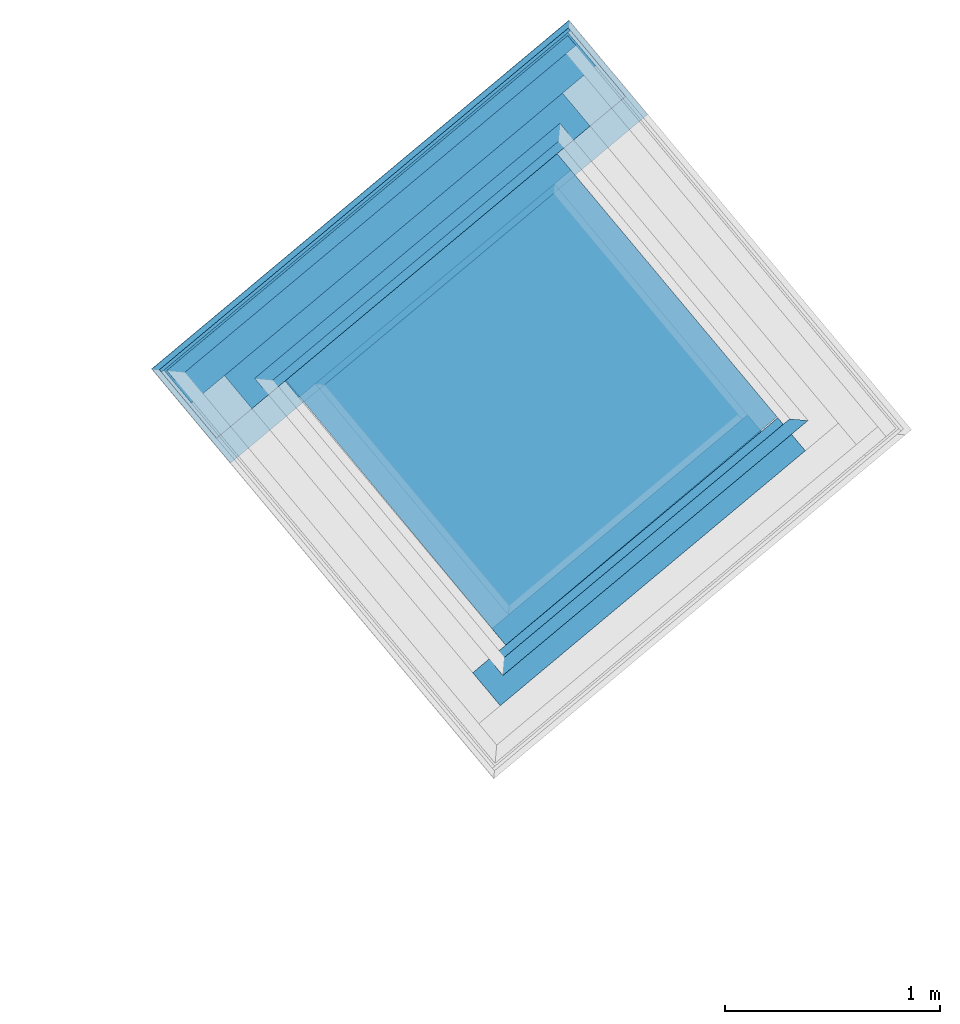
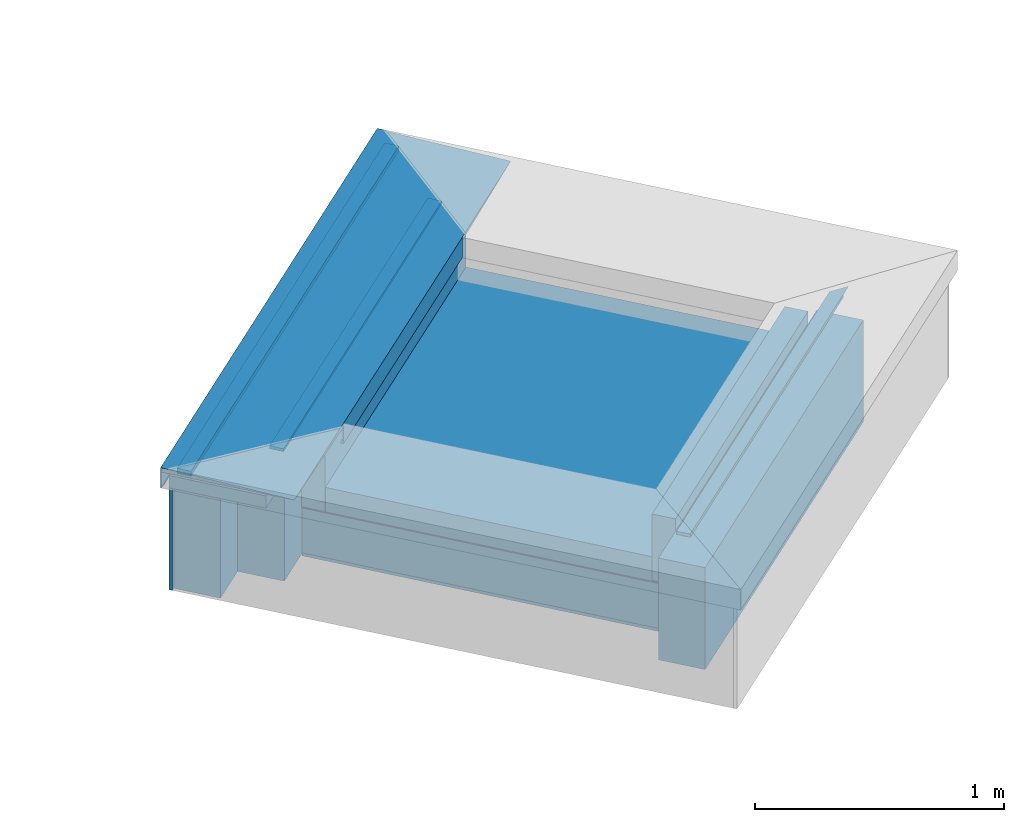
# One storey, part 10 of 13: 16 building element parts, 3 elements without a shape of their own.
"""IFC4 building model written with IfcOpenShell, lengths in metres."""

from ifc_helpers import new_model, entity, si_unit, converted_unit, derived_unit, direction, frame, origin_with_axes, place, context, subcontext, project, spatial, polygons, material, type_object, element, aggregate, save


model = new_model("IFC4")

# Units and contexts
model_context = context("Model", 3, precision=1e-05, world=origin_with_axes(), true_north=direction((0.0, 1.0)))
body_context = subcontext(model_context, "Body", "Model", "MODEL_VIEW")
ifc_project = project(units=[si_unit("LENGTHUNIT", "METRE"), si_unit("AREAUNIT", "SQUARE_METRE"), si_unit("VOLUMEUNIT", "CUBIC_METRE"), converted_unit("PLANEANGLEUNIT", "DEGREE", entity("IfcPlaneAngleMeasure", 0.0174532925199), si_unit("PLANEANGLEUNIT", "RADIAN"), dimensions=[0, 0, 0, 0, 0, 0, 0]), converted_unit("TIMEUNIT", "Year", entity("IfcTimeMeasure", 31556926.0), si_unit("TIMEUNIT", "SECOND"), dimensions=[0, 0, 1, 0, 0, 0, 0]), si_unit("MASSUNIT", "GRAM", prefix="KILO"), si_unit("THERMODYNAMICTEMPERATUREUNIT", "DEGREE_CELSIUS"), si_unit("LUMINOUSINTENSITYUNIT", "LUMEN"), si_unit("ENERGYUNIT", "JOULE", prefix="MEGA"), derived_unit("THERMALCONDUCTANCEUNIT", [(si_unit("POWERUNIT", "WATT"), 1), (si_unit("LENGTHUNIT", "METRE"), -1), (si_unit("THERMODYNAMICTEMPERATUREUNIT", "KELVIN"), -1)]), derived_unit("SPECIFICHEATCAPACITYUNIT", [(si_unit("ENERGYUNIT", "JOULE"), 1), (si_unit("MASSUNIT", "GRAM", prefix="KILO"), -1), (si_unit("THERMODYNAMICTEMPERATUREUNIT", "KELVIN"), -1)]), derived_unit("MASSDENSITYUNIT", [(si_unit("MASSUNIT", "GRAM", prefix="KILO"), 1), (si_unit("VOLUMEUNIT", "CUBIC_METRE"), -1)])], contexts=[model_context])

# Site, building, storey
site_placement = place(None, frame((-0.00153261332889, -0.00661245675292, 0.0), z_axis=(0.0, 0.0, 1.0), x_axis=(1.0, 0.0, 0.0)))
site = spatial("IfcSite", under=ifc_project, at=site_placement, Name="Gelände", CompositionType="ELEMENT")
building_placement = place(site_placement, origin_with_axes())
building = spatial("IfcBuilding", under=site, at=building_placement, Name="Gebäude", CompositionType="ELEMENT")
storey_placement = place(building_placement, frame((0.0, 0.0, 11.84), z_axis=(0.0, 0.0, 1.0), x_axis=(1.0, 0.0, 0.0)))
storey = spatial("IfcBuildingStorey", under=building, at=storey_placement, Name="DA", CompositionType="ELEMENT", Elevation=11.84)

# Wall, building element parts
wall_type = type_object("IfcWallType", Name="Bauteil - Attika 574 x 610", PredefinedType="NOTDEFINED")
wall_1_placement = place(storey_placement, frame((1.33818690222, 24.5040825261, 0.96), z_axis=(0.0, 0.0, 1.0), x_axis=(0.767364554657, 0.641211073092, 0.0)))
wall_1 = element("IfcWall", 1, at=wall_1_placement, inside=storey, type_object=wall_type, Name="Wand-002", PredefinedType="NOTDEFINED")
ifc_material_1 = material(Name="EPS 1")
building_element_part_1_placement = place(wall_1_placement, origin_with_axes())
building_element_part_1 = element("IfcBuildingElementPart", 2, at=building_element_part_1_placement, material=ifc_material_1, Name="EPS 1", PredefinedType="NOTDEFINED", context=body_context, shape_type="Tessellation", body=[
    polygons([(0.200019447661, 0.30000000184, 0.560000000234), (0.200012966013, 0.200000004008, 0.560000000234), (1.7496829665, 0.200000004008, 0.560000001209), (1.74968315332, 0.30000000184, 0.560000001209), (0.200012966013, 0.200000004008, 0.519224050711), (0.200019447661, 0.30000000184, 0.519224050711), (0.200012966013, 0.200000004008, 0.51136132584), (0.200012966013, 0.200000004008, 0.509050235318), (0.200012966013, 0.200000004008, 0.499999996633), (0.200012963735, 0.200000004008, 0.498822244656), (0.200012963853, 0.200000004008, 0.491006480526), (0.200012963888, 0.200000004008, 0.488695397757), (0.200012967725, 0.200000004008, 0.235000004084), (1.7496829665, 0.200000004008, 0.235000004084), (1.7496829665, 0.200000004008, 0.488695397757), (1.7496829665, 0.200000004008, 0.491006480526), (1.7496829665, 0.200000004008, 0.498822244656), (1.7496829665, 0.200000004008, 0.499999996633), (1.7496829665, 0.200000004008, 0.509050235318), (1.7496829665, 0.200000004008, 0.51136132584), (1.7496829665, 0.200000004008, 0.519224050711), (1.74968315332, 0.30000000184, 0.519224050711), (1.74968315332, 0.30000000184, 0.51136132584), (1.74968315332, 0.30000000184, 0.509050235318), (1.74968315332, 0.30000000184, 0.499999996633), (1.74968315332, 0.30000000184, 0.498822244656), (1.74968315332, 0.30000000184, 0.491006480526), (1.74968315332, 0.30000000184, 0.488695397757), (1.74968315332, 0.30000000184, 0.235000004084), (0.200019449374, 0.30000000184, 0.235000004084), (0.200019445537, 0.30000000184, 0.488695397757), (0.200019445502, 0.30000000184, 0.491006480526), (0.200019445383, 0.30000000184, 0.498822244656), (0.200019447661, 0.30000000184, 0.499999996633), (0.200019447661, 0.30000000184, 0.509050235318), (0.200019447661, 0.30000000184, 0.51136132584)], [[[1, 2, 3, 4]], [[5, 2, 1, 6]], [[2, 5, 7, 8, 9, 10, 11, 12, 13, 14, 15, 16, 17, 18, 19, 20, 21, 3]], [[4, 3, 21, 22]], [[6, 1, 4, 22, 23, 24, 25, 26, 27, 28, 29, 30, 31, 32, 33, 34, 35, 36]], [[5, 6, 36, 7]], [[7, 36, 35, 8]], [[8, 35, 34, 9]], [[9, 34, 33, 10]], [[10, 33, 32, 11]], [[11, 32, 31, 12]], [[12, 31, 30, 13]], [[13, 30, 29, 14]], [[28, 15, 14, 29]], [[27, 16, 15, 28]], [[26, 17, 16, 27]], [[25, 18, 17, 26]], [[24, 19, 18, 25]], [[23, 20, 19, 24]], [[22, 21, 20, 23]]], closed=True),
])
ifc_material_2 = material(Name="Vollholz")
building_element_part_2_placement = place(wall_1_placement, origin_with_axes())
building_element_part_2 = element("IfcBuildingElementPart", 3, at=building_element_part_2_placement, material=ifc_material_2, Name="Vollholz", PredefinedType="NOTDEFINED", context=body_context, shape_type="Tessellation", body=[
    polygons([(0.100010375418, 0.160110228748, 0.573880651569), (0.100006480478, 0.1, 0.575979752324), (1.94968278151, 0.1, 0.575979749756), (1.88957266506, 0.160110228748, 0.573880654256), (0.100006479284, 0.1, 0.573880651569), (0.100006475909, 0.1, 0.567947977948), (0.100006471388, 0.1, 0.560000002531), (1.88968278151, 0.1, 0.560000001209), (1.88961966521, 0.1, 0.567947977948), (1.88957255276, 0.1, 0.573880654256), (1.88961977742, 0.160063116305, 0.567947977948), (1.88968289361, 0.16, 0.560000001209), (0.100010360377, 0.16, 0.560000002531), (0.100010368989, 0.160063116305, 0.567947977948)], [[[1, 2, 3, 4]], [[5, 2, 1]], [[2, 5, 6, 7, 8, 9, 10, 3]], [[10, 4, 3]], [[11, 12, 13, 14, 1, 4]], [[5, 1, 14, 6]], [[7, 6, 14, 13]], [[12, 8, 7, 13]], [[12, 11, 9, 8]], [[4, 10, 9, 11]]], closed=True),
])
ifc_material_3 = material(Name="Stahlbeton Wand Garage")
building_element_part_3_placement = place(wall_1_placement, origin_with_axes())
building_element_part_3 = element("IfcBuildingElementPart", 4, at=building_element_part_3_placement, material=ifc_material_3, Name="Stahlbeton Wand Garage", PredefinedType="NOTDEFINED", context=body_context, shape_type="Tessellation", body=[
    polygons([(1.29654635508e-05, 0.2, 0.5), (2.16659046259e-09, 0.0, 0.5), (1.84968259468, 0.0, 0.5), (1.84968296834, 0.2, 0.5), (2.16658690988e-09, 0.0, 0.498822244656), (1.29654641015e-05, 0.200000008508, 0.498822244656), (2.16657625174e-09, -1.53391965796e-10, 0.491006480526), (2.16657625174e-09, -1.92805771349e-10, 0.488695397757), (2.16629203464e-09, -4.51978010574e-09, 0.235000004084), (2.16658690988e-09, 0.0, 0.0), (1.84968259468, 0.0, 0.0), (1.84968259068, -4.51978010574e-09, 0.235000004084), (1.84968259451, -1.92805771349e-10, 0.488695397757), (1.84968259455, -1.53388413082e-10, 0.491006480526), (1.84968259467, 0.0, 0.498822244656), (1.84968296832, 0.200000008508, 0.498822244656), (1.8496829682, 0.200000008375, 0.491006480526), (1.84968296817, 0.200000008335, 0.488695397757), (1.84968296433, 0.200000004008, 0.235000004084), (1.29654638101e-05, 0.200000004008, 0.235000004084), (1.29654640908e-05, 0.200000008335, 0.488695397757), (1.29654640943e-05, 0.200000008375, 0.491006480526), (1.29654635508e-05, 0.2, 0.0), (1.84968296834, 0.2, 0.0)], [[[1, 2, 3, 4]], [[5, 2, 1, 6]], [[2, 5, 7, 8, 9, 10, 11, 12, 13, 14, 15, 3]], [[4, 3, 15, 16]], [[6, 1, 4, 16, 17, 18, 19, 20, 21, 22]], [[5, 6, 22, 7]], [[7, 22, 21, 8]], [[8, 21, 20, 9]], [[9, 20, 23, 10]], [[10, 23, 24, 11]], [[19, 12, 11, 24]], [[18, 13, 12, 19]], [[17, 14, 13, 18]], [[16, 15, 14, 17]], [[23, 20, 19, 24]]], closed=True),
])
aggregate(wall_1, [building_element_part_1, building_element_part_2, building_element_part_3])

wall_2_placement = place(storey_placement, frame((0.0551279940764, 26.0397759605, 0.96), z_axis=(0.0, 0.0, 1.0), x_axis=(0.767365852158, 0.641209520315, 0.0)))
wall_2 = element("IfcWall", 5, at=wall_2_placement, inside=storey, type_object=wall_type, Name="Wand-002", PredefinedType="NOTDEFINED")
ifc_material_4 = material(Name="Zementputz")
building_element_part_4_placement = place(wall_2_placement, origin_with_axes())
building_element_part_4 = element("IfcBuildingElementPart", 6, at=building_element_part_4_placement, material=ifc_material_4, Name="Zementputz", PredefinedType="NOTDEFINED", context=body_context, shape_type="Tessellation", body=[
    polygons([(-0.2149864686, 0.214999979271, 0.50000001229), (-0.214987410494, 0.19999996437, 0.50000001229), (2.26455656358, 0.199999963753, 0.50000001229), (2.26455656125, 0.214999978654, 0.50000001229), (-0.214984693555, 0.199999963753, 0.0), (-0.214983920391, 0.214999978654, 0.0), (2.26455656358, 0.199999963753, 0.0), (2.26455656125, 0.214999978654, 0.0)], [[[1, 2, 3, 4]], [[5, 2, 1, 6]], [[2, 5, 7, 3]], [[3, 7, 8, 4]], [[6, 1, 4, 8]], [[5, 6, 8, 7]]], closed=True),
])
building_element_part_5_placement = place(wall_2_placement, origin_with_axes())
building_element_part_5 = element("IfcBuildingElementPart", 7, at=building_element_part_5_placement, material=ifc_material_2, Name="Vollholz", PredefinedType="NOTDEFINED", context=body_context, shape_type="Tessellation", body=[
    polygons([(-0.18997324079, 0.189984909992, 0.586106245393), (-0.189987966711, 0.130124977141, 0.584015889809), (2.23955274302, 0.130124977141, 0.584015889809), (2.23954176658, 0.189984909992, 0.586106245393), (-0.189984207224, 0.189996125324, 0.584015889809), (2.23963894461, 0.130124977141, 0.567947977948), (2.23960711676, 0.130124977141, 0.573880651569), (2.23959585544, 0.130124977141, 0.575979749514), (-0.190031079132, 0.130124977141, 0.575979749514), (-0.190042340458, 0.130124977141, 0.573880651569), (-0.190074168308, 0.130124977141, 0.567947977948), (-0.190116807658, 0.130124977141, 0.560000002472), (2.23968158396, 0.130124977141, 0.560000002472), (2.23955273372, 0.189996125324, 0.584015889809), (2.23959584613, 0.190039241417, 0.575979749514), (2.23960710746, 0.190050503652, 0.573880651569), (2.2396389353, 0.190082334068, 0.567947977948), (2.23968157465, 0.190124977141, 0.560000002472), (-0.19011304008, 0.190124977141, 0.560000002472), (-0.190070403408, 0.190082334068, 0.567947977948), (-0.190038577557, 0.190050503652, 0.573880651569), (-0.190027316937, 0.190039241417, 0.575979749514)], [[[1, 2, 3, 4]], [[5, 2, 1]], [[6, 7, 8, 3, 2, 9, 10, 11, 12, 13]], [[3, 14, 4]], [[5, 1, 4, 14, 15, 16, 17, 18, 19, 20, 21, 22]], [[2, 5, 22, 9]], [[6, 17, 16, 7]], [[7, 16, 15, 8]], [[8, 15, 14, 3]], [[9, 22, 21, 10]], [[10, 21, 20, 11]], [[11, 20, 19, 12]], [[12, 19, 18, 13]], [[13, 18, 17, 6]]], closed=True),
])
building_element_part_6_placement = place(wall_2_placement, origin_with_axes())
building_element_part_6 = element("IfcBuildingElementPart", 8, at=building_element_part_6_placement, material=ifc_material_1, Name="EPS 1", PredefinedType="NOTDEFINED", context=body_context, shape_type="Tessellation", body=[
    polygons([(-0.199987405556, 0.199999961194, 0.5), (-0.199999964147, -1.55327128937e-09, 0.5), (2.2495565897, -2.16285656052e-09, 0.5), (2.24955655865, 0.199999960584, 0.5), (-0.199999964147, -1.54953738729e-09, 0.498822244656), (-0.199987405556, 0.19999996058, 0.498822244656), (-0.199999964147, -1.54953738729e-09, 0.491006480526), (-0.199999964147, -1.54953738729e-09, 0.488695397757), (-0.199999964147, -1.54953738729e-09, 0.235000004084), (-0.199999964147, -2.16658690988e-09, 0.0), (2.2495565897, -2.16659046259e-09, 0.0), (2.2495565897, -1.54954094e-09, 0.235000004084), (2.2495565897, -1.54954094e-09, 0.488695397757), (2.2495565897, -1.54954094e-09, 0.491006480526), (2.2495565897, -1.54954094e-09, 0.498822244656), (2.24955655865, 0.19999996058, 0.498822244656), (2.24955655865, 0.19999996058, 0.491006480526), (2.24955655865, 0.19999996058, 0.488695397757), (2.24955655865, 0.19999996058, 0.235000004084), (2.24955655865, 0.19999996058, 0.0), (-0.199987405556, 0.19999996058, 0.0), (-0.199987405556, 0.19999996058, 0.235000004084), (-0.199987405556, 0.19999996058, 0.488695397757), (-0.199987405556, 0.19999996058, 0.491006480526)], [[[1, 2, 3, 4]], [[5, 2, 1, 6]], [[2, 5, 7, 8, 9, 10, 11, 12, 13, 14, 15, 3]], [[16, 4, 3, 15]], [[6, 1, 4, 16, 17, 18, 19, 20, 21, 22, 23, 24]], [[5, 6, 24, 7]], [[23, 8, 7, 24]], [[8, 23, 22, 9]], [[21, 10, 9, 22]], [[10, 21, 20, 11]], [[12, 11, 20, 19]], [[19, 18, 13, 12]], [[14, 13, 18, 17]], [[17, 16, 15, 14]]], closed=True),
])
ifc_material_5 = material(Name="Brettschichtholz")
building_element_part_7_placement = place(wall_2_placement, origin_with_axes())
building_element_part_7 = element("IfcBuildingElementPart", 9, at=building_element_part_7_placement, material=ifc_material_5, Name="Brettschichtholz", PredefinedType="NOTDEFINED", context=body_context, shape_type="Tessellation", body=[
    polygons([(-0.215010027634, -0.159999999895, 0.560000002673), (-0.215012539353, -0.200000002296, 0.560000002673), (2.26455663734, -0.200000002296, 0.560000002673), (2.26455663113, -0.159999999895, 0.560000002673), (-0.215012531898, -0.200000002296, 0.519224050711), (-0.215006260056, -0.0999999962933, 0.560000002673), (-0.214991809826, 0.130124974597, 0.560000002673), (-0.214988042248, 0.190124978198, 0.560000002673), (-0.214986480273, 0.214999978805, 0.560000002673), (-0.214986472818, 0.214999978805, 0.519224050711), (-0.215012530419, -0.200000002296, 0.51136132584), (-0.21500531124, -0.200000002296, 0.50905023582), (-0.21501252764, -0.200000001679, 0.50000001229), (2.26455662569, -0.200000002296, 0.50000001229), (2.26455662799, -0.200000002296, 0.509050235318), (2.2645566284, -0.200000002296, 0.51136132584), (2.26455662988, -0.200000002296, 0.519224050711), (2.26455658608, 0.130124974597, 0.560000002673), (2.26455662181, -0.0999999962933, 0.560000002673), (2.26455656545, 0.214999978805, 0.519224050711), (2.2645565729, 0.214999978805, 0.560000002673), (2.26455657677, 0.190124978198, 0.560000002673), (2.26455656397, 0.214999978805, 0.51136132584), (2.26455656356, 0.214999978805, 0.509050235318), (2.26455656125, 0.214999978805, 0.50000001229), (-0.2149864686, 0.214999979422, 0.50000001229), (-0.214986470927, 0.214999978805, 0.509050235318), (-0.214986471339, 0.214999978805, 0.51136132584)], [[[1, 2, 3, 4]], [[5, 2, 1, 6, 7, 8, 9, 10]], [[2, 5, 11, 12, 13, 14, 15, 16, 17, 3]], [[18, 19, 4, 3, 17, 20, 21, 22]], [[6, 1, 4, 19]], [[7, 6, 19, 18]], [[8, 7, 18, 22]], [[9, 8, 22, 21]], [[10, 9, 21, 20, 23, 24, 25, 26, 27, 28]], [[5, 10, 28, 11]], [[12, 11, 27]], [[12, 26, 13]], [[25, 14, 13, 26]], [[14, 25, 24, 15]], [[23, 16, 15, 24]], [[16, 23, 20, 17]], [[26, 12, 27]], [[27, 11, 28]]], closed=True),
])
building_element_part_8_placement = place(wall_2_placement, origin_with_axes())
building_element_part_8 = element("IfcBuildingElementPart", 10, at=building_element_part_8_placement, material=ifc_material_3, Name="Stahlbeton Wand Garage", PredefinedType="NOTDEFINED", context=body_context, shape_type="Tessellation", body=[
    polygons([(2.16662243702e-09, 5.635492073e-10, 0.5), (-1.25564266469e-05, -0.199999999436, 0.5), (2.04955665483, -0.199999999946, 0.5), (2.04955662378, 0.0, 0.5), (-1.25564266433e-05, -0.199999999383, 0.498822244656), (2.16659046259e-09, 0.0, 0.498822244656), (-1.25564266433e-05, -0.199999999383, 0.491006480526), (-1.25564266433e-05, -0.199999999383, 0.488695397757), (-1.25564269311e-05, -0.200000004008, 0.235000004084), (2.04955665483, -0.200000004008, 0.235000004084), (2.04955665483, -0.199999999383, 0.488695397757), (2.04955665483, -0.199999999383, 0.491006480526), (2.04955665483, -0.199999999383, 0.498822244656), (2.04955662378, 0.0, 0.498822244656), (2.04955662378, 0.0, 0.491006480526), (2.04955662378, 0.0, 0.488695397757), (2.04955662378, 0.0, 0.235000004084), (2.04955662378, 0.0, 0.0), (2.16659046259e-09, 0.0, 0.0), (2.16659046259e-09, 0.0, 0.235000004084), (2.16659046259e-09, 0.0, 0.488695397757), (2.16659046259e-09, 0.0, 0.491006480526), (-1.25564266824e-05, -0.2, 0.0), (2.04955665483, -0.2, 0.0)], [[[1, 2, 3, 4]], [[5, 2, 1, 6]], [[2, 5, 7, 8, 9, 10, 11, 12, 13, 3]], [[13, 14, 4, 3]], [[6, 1, 4, 14, 15, 16, 17, 18, 19, 20, 21, 22]], [[5, 6, 22, 7]], [[7, 22, 21, 8]], [[8, 21, 20, 9]], [[9, 23, 24, 10]], [[10, 17, 16, 11]], [[11, 16, 15, 12]], [[12, 15, 14, 13]], [[24, 18, 17, 10]], [[23, 19, 18, 24]], [[9, 20, 19, 23]]], closed=True),
])
building_element_part_9_placement = place(wall_2_placement, origin_with_axes())
building_element_part_9 = element("IfcBuildingElementPart", 11, at=building_element_part_9_placement, material=ifc_material_2, Name="Vollholz", PredefinedType="NOTDEFINED", context=body_context, shape_type="Tessellation", body=[
    polygons([(0.09999371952, -0.1, 0.575979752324), (0.0999899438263, -0.160110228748, 0.573880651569), (1.94955665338, -0.160110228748, 0.573880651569), (1.94955664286, -0.1, 0.575979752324), (0.0999937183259, -0.1, 0.573880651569), (1.94955665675, -0.160063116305, 0.567947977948), (0.09998994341, -0.160063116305, 0.567947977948), (0.0999899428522, -0.16, 0.560000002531), (1.94955666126, -0.16, 0.560000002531), (1.94955664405, -0.1, 0.573880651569), (1.94955664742, -0.1, 0.567947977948), (1.94955665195, -0.1, 0.560000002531), (0.0999937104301, -0.1, 0.560000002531), (0.0999937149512, -0.1, 0.567947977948)], [[[1, 2, 3, 4]], [[5, 2, 1]], [[6, 3, 2, 7, 8, 9]], [[10, 4, 3]], [[5, 1, 4, 10, 11, 12, 13, 14]], [[2, 5, 14, 7]], [[10, 3, 6, 11]], [[7, 14, 13, 8]], [[8, 13, 12, 9]], [[11, 6, 9, 12]]], closed=True),
])
building_element_part_10_placement = place(wall_2_placement, origin_with_axes())
building_element_part_10 = element("IfcBuildingElementPart", 12, at=building_element_part_10_placement, material=ifc_material_1, Name="EPS 1", PredefinedType="NOTDEFINED", context=body_context, shape_type="Tessellation", body=[
    polygons([(0.199987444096, -0.200000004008, 0.560000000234), (0.1999811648, -0.30000000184, 0.560000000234), (1.84955667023, -0.30000000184, 0.560000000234), (1.84955665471, -0.200000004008, 0.560000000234), (0.1999811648, -0.30000000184, 0.519224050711), (0.199987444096, -0.200000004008, 0.519224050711), (0.1999811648, -0.30000000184, 0.51136132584), (0.1999811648, -0.30000000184, 0.509050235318), (0.1999811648, -0.30000000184, 0.499999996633), (0.199981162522, -0.30000000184, 0.498822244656), (0.19998116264, -0.30000000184, 0.491006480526), (0.199981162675, -0.30000000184, 0.488695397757), (0.199981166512, -0.30000000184, 0.235000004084), (1.84955666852, -0.30000000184, 0.235000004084), (1.84955667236, -0.30000000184, 0.488695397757), (1.84955667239, -0.30000000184, 0.491006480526), (1.84955667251, -0.30000000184, 0.498822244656), (1.84955667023, -0.30000000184, 0.499999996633), (1.84955667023, -0.30000000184, 0.509050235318), (1.84955667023, -0.30000000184, 0.51136132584), (1.84955667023, -0.30000000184, 0.519224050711), (1.84955665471, -0.200000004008, 0.519224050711), (1.84955665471, -0.200000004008, 0.51136132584), (1.84955665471, -0.200000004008, 0.509050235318), (1.84955665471, -0.200000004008, 0.499999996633), (1.84955665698, -0.200000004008, 0.498822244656), (1.84955665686, -0.200000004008, 0.491006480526), (1.84955665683, -0.200000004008, 0.488695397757), (1.84955665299, -0.200000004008, 0.235000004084), (0.199987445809, -0.200000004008, 0.235000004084), (0.199987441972, -0.200000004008, 0.488695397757), (0.199987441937, -0.200000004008, 0.491006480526), (0.199987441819, -0.200000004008, 0.498822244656), (0.199987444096, -0.200000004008, 0.499999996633), (0.199987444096, -0.200000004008, 0.509050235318), (0.199987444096, -0.200000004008, 0.51136132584)], [[[1, 2, 3, 4]], [[5, 2, 1, 6]], [[2, 5, 7, 8, 9, 10, 11, 12, 13, 14, 15, 16, 17, 18, 19, 20, 21, 3]], [[3, 21, 22, 4]], [[6, 1, 4, 22, 23, 24, 25, 26, 27, 28, 29, 30, 31, 32, 33, 34, 35, 36]], [[5, 6, 36, 7]], [[35, 8, 7, 36]], [[8, 35, 34, 9]], [[33, 10, 9, 34]], [[10, 33, 32, 11]], [[31, 12, 11, 32]], [[12, 31, 30, 13]], [[29, 14, 13, 30]], [[15, 14, 29, 28]], [[28, 27, 16, 15]], [[17, 16, 27, 26]], [[18, 17, 26, 25]], [[19, 18, 25, 24]], [[20, 19, 24, 23]], [[21, 20, 23, 22]]], closed=True),
])
ifc_material_6 = material(Name="Holzwerkstoff")
building_element_part_11_placement = place(wall_2_placement, origin_with_axes())
building_element_part_11 = element("IfcBuildingElementPart", 13, at=building_element_part_11_placement, material=ifc_material_6, Name="Holzwerkstoff", PredefinedType="NOTDEFINED", context=body_context, shape_type="Tessellation", body=[
    polygons([(-0.130145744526, -0.330561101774, 0.584015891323), (-0.190005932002, -0.330634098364, 0.586106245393), (-0.189973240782, 0.189985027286, 0.586106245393), (-0.130116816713, 0.130124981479, 0.584015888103), (0.0999792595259, -0.330280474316, 0.575979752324), (0.160089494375, -0.330207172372, 0.573880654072), (0.329979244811, -0.329999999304, 0.567947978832), (1.71955671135, -0.329999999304, 0.567947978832), (1.88944644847, -0.330207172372, 0.573880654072), (1.94955667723, -0.330280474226, 0.575979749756), (2.17968166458, -0.330561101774, 0.584015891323), (2.23954158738, -0.330634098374, 0.586106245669), (2.28955667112, -0.330695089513, 0.587852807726), (2.28955367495, -0.330698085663, 0.587938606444), (-0.240017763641, -0.330698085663, 0.587938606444), (-0.240020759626, -0.330695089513, 0.587852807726), (-0.239984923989, 0.239999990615, 0.587852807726), (2.23954138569, 0.189984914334, 0.586106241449), (2.17968150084, 0.130124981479, 0.584015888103), (0.0999937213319, -0.100000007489, 0.575979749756), (0.160100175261, -0.160110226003, 0.573880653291), (1.88944642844, -0.160110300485, 0.57388065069), (1.94955664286, -0.0999999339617, 0.575979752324), (2.28955658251, 0.239999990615, 0.587852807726), (2.28955358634, 0.239996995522, 0.587938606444), (-0.239261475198, 0.239276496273, 0.608570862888), (2.28883308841, 0.239276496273, 0.608570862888), (-0.239981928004, 0.239996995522, 0.587938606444)], [[[1, 2, 3, 4]], [[1, 5, 6, 7, 8, 9, 10, 11, 12, 13, 14, 15, 16, 2]], [[2, 16, 17, 3]], [[4, 3, 18, 19]], [[5, 1, 4, 20]], [[20, 21, 6, 5]], [[7, 6, 21]], [[8, 7, 21, 22]], [[8, 22, 9]], [[9, 22, 23, 10]], [[10, 23, 19, 11]], [[19, 18, 12, 11]], [[18, 24, 13, 12]], [[24, 25, 14, 13]], [[26, 15, 14, 27]], [[16, 15, 28, 17]], [[3, 17, 24, 18]], [[20, 4, 19, 23]], [[21, 20, 23, 22]], [[17, 28, 26, 27, 25, 24]], [[25, 27, 14]], [[28, 15, 26]]], closed=True),
])
ifc_material_7 = material(Name="Stahl")
building_element_part_12_placement = place(wall_2_placement, origin_with_axes())
building_element_part_12 = element("IfcBuildingElementPart", 14, at=building_element_part_12_placement, material=ifc_material_7, Name="Stahl", PredefinedType="NOTDEFINED", context=body_context, shape_type="Tessellation", body=[
    polygons([(-0.240131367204, 0.240146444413, 0.511361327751), (-0.241485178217, 0.240146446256, 0.51136132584), (-0.241485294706, 0.238231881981, 0.511361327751), (-0.240131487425, 0.238231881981, 0.511361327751), (2.2897030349, 0.240146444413, 0.511361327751), (2.29105684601, 0.240146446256, 0.51136132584), (2.29105684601, 0.240152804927, 0.608602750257), (2.28970939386, 0.240152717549, 0.608602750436), (-0.240137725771, 0.240152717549, 0.608602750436), (-0.241485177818, 0.240152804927, 0.608602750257), (-0.241487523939, 0.202730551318, 0.608602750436), (-0.241485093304, 0.241500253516, 0.610006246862), (-0.241485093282, 0.241500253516, 0.510007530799), (-0.241485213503, 0.239585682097, 0.510007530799), (-0.240527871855, 0.240542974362, 0.509050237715), (2.29009956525, 0.240542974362, 0.509050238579), (2.2910568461, 0.239585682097, 0.510007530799), (2.29105684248, 0.238231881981, 0.511361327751), (2.2897030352, 0.238231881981, 0.511361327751), (2.28284456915, 0.231373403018, 0.518219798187), (-0.233273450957, 0.231373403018, 0.518219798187), (-0.232269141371, 0.232283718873, 0.51922405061), (2.28184031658, 0.232283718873, 0.51922405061), (2.2910568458, 0.241500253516, 0.510007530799), (2.2910568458, 0.241500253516, 0.610006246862), (2.29105684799, 0.202730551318, 0.608602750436), (2.28970939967, 0.202730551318, 0.608602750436), (-0.23926147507, 0.239276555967, 0.608570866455), (2.28883308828, 0.239276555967, 0.608570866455), (-0.24014007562, 0.202730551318, 0.608602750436), (-0.239263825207, 0.201849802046, 0.608570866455), (0.294639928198, -0.332051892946, 0.589243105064), (1.75489589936, -0.332051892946, 0.589243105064), (2.28883309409, 0.201849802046, 0.608570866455), (0.330677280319, -0.330698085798, 0.587937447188), (0.330677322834, -0.330666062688, 0.587938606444), (1.7188585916, -0.330666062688, 0.587938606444), (1.71885863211, -0.330698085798, 0.587937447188), (0.330677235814, -0.332051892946, 0.587938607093), (0.328762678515, -0.332051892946, 0.491006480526), (0.330116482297, -0.332051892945, 0.489652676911), (1.71941934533, -0.332051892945, 0.489652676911), (1.72077314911, -0.332051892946, 0.491006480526), (1.71885859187, -0.332051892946, 0.491006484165), (1.71885859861, -0.332051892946, 0.498822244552), (1.71885859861, -0.332051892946, 0.499999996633), (1.71885859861, -0.332051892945, 0.509050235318), (1.71885859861, -0.332051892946, 0.51136132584), (1.71885859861, -0.332051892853, 0.519224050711), (1.71885859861, -0.332051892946, 0.560000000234), (1.71885859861, -0.332051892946, 0.56794797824), (1.71885859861, -0.332051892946, 0.57388065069), (1.71885859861, -0.332051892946, 0.575979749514), (1.71885859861, -0.332051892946, 0.584015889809), (1.71885859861, -0.332051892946, 0.586106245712), (1.71885859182, -0.332051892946, 0.587938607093), (0.330677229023, -0.332051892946, 0.586106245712), (0.330677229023, -0.332051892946, 0.584015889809), (0.330677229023, -0.332051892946, 0.575979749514), (0.330677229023, -0.332051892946, 0.57388065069), (0.330677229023, -0.332051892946, 0.56794797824), (0.330677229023, -0.332051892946, 0.560000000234), (0.330677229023, -0.332051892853, 0.519224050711), (0.330677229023, -0.332051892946, 0.51136132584), (0.330677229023, -0.332051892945, 0.509050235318), (0.330677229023, -0.332051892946, 0.499999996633), (0.330677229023, -0.332051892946, 0.498822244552), (0.330677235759, -0.332051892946, 0.491006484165), (0.330677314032, -0.330698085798, 0.498822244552), (0.330677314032, -0.330698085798, 0.499999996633), (0.330677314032, -0.330698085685, 0.509050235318), (0.330677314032, -0.330698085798, 0.51136132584), (0.330677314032, -0.330698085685, 0.519224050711), (0.330677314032, -0.330698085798, 0.560000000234), (0.330677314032, -0.330698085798, 0.56794797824), (0.330677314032, -0.330698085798, 0.57388065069), (0.330677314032, -0.330698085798, 0.575979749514), (0.330677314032, -0.330698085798, 0.584015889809), (0.330677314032, -0.330698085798, 0.586106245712), (1.7188585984, -0.330698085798, 0.586106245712), (1.7188585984, -0.330698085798, 0.584015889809), (1.7188585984, -0.330698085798, 0.575979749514), (1.7188585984, -0.330698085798, 0.57388065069), (1.7188585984, -0.330698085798, 0.56794797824), (1.7188585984, -0.330698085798, 0.560000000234), (1.7188585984, -0.330698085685, 0.519224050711), (1.7188585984, -0.330698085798, 0.51136132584), (1.7188585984, -0.330698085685, 0.509050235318), (1.7188585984, -0.330698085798, 0.499999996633), (1.7188585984, -0.330698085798, 0.498822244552), (1.71885859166, -0.330698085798, 0.491006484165), (0.330677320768, -0.330698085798, 0.491006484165), (0.328762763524, -0.330698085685, 0.491006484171), (0.328762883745, -0.328783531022, 0.491006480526), (0.331073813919, -0.331094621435, 0.4886954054), (1.71846207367, -0.331094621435, 0.4886954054), (1.72077314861, -0.328783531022, 0.491006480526), (1.7207731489, -0.330698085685, 0.491006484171), (1.72767860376, -0.323792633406, 0.497911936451), (1.72667435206, -0.32288233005, 0.498822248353), (0.322862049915, -0.32288233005, 0.498822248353), (0.3218577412, -0.323792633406, 0.497911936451), (0.321857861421, -0.321878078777, 0.497911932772), (1.72767860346, -0.321878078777, 0.497911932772)], [[[1, 2, 3, 4]], [[2, 1, 5, 6, 7, 8, 9, 10]], [[11, 12, 13, 14, 3, 2, 10]], [[3, 14, 15, 16, 17, 18, 19, 20, 21, 4]], [[1, 4, 21, 22]], [[1, 22, 23, 5]], [[5, 19, 18, 6]], [[17, 24, 25, 26, 7, 6, 18]], [[27, 8, 7, 26]], [[28, 9, 8, 29]], [[30, 11, 10, 9]], [[11, 30, 31, 32, 33, 34, 27, 26, 25, 12]], [[13, 12, 25, 24]], [[14, 13, 15]], [[15, 13, 24, 16]], [[16, 24, 17]], [[5, 23, 20, 19]], [[22, 21, 20, 23]], [[29, 8, 27, 34]], [[28, 31, 30, 9]], [[35, 36, 28, 29, 37, 38]], [[36, 35, 39, 32, 31, 28]], [[40, 41, 42, 43, 44, 45, 46, 47, 48, 49, 50, 51, 52, 53, 54, 55, 56, 33, 32, 39, 57, 58, 59, 60, 61, 62, 63, 64, 65, 66, 67, 68]], [[38, 37, 29, 34, 33, 56]], [[69, 70, 71, 72, 73, 74, 75, 76, 77, 78, 79, 35, 38, 80, 81, 82, 83, 84, 85, 86, 87, 88, 89, 90, 91, 92]], [[35, 79, 57, 39]], [[93, 94, 95, 41, 40]], [[41, 95, 96, 42]], [[96, 97, 98, 43, 42]], [[91, 44, 43, 98]], [[44, 91, 90, 45]], [[46, 45, 90, 89]], [[46, 89, 88, 47]], [[47, 88, 87, 48]], [[48, 87, 86, 49]], [[85, 50, 49, 86]], [[50, 85, 84, 51]], [[51, 84, 83, 52]], [[52, 83, 82, 53]], [[53, 82, 81, 54]], [[54, 81, 80, 55]], [[56, 55, 80, 38]], [[78, 58, 57, 79]], [[77, 59, 58, 78]], [[76, 60, 59, 77]], [[76, 75, 61, 60]], [[75, 74, 62, 61]], [[62, 74, 73, 63]], [[72, 64, 63, 73]], [[72, 71, 65, 64]], [[71, 70, 66, 65]], [[70, 69, 67, 66]], [[67, 69, 92, 68]], [[93, 40, 68, 92]], [[93, 92, 91, 98, 99, 100, 101, 102]], [[94, 93, 102, 103]], [[94, 103, 104, 97, 96, 95]], [[97, 104, 99, 98]], [[99, 104, 100]], [[103, 101, 100, 104]], [[102, 101, 103]]], closed=True),
])
aggregate(wall_2, [building_element_part_4, building_element_part_5, building_element_part_6, building_element_part_7, building_element_part_8, building_element_part_9, building_element_part_10, building_element_part_11, building_element_part_12])

# Roof, building element parts
roof_type = type_object("IfcRoofType", Name="Flachdach Kies Dachaufbau 360", PredefinedType="NOTDEFINED")
roof_placement = place(storey_placement, frame((2.91104067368, 25.8183617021, 0.95), z_axis=(0.0, 0.0, 1.0), x_axis=(-0.767364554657, -0.641211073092, 0.0)))
roof = element("IfcRoof", 15, at=roof_placement, inside=storey, type_object=roof_type, Name="Dach-002", PredefinedType="NOTDEFINED")
ifc_material_8 = material(Name="Kies")
building_element_part_13_placement = place(roof_placement, origin_with_axes())
building_element_part_13 = element("IfcBuildingElementPart", 16, at=building_element_part_13_placement, material=ifc_material_8, Name="Kies", PredefinedType="NOTDEFINED", context=body_context, shape_type="Tessellation", body=[
    polygons([(0.199996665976, -1.80114454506, 0.24), (0.199996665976, -1.80114454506, 0.36), (0.199999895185, -0.205028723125, 0.36), (0.199999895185, -0.205028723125, 0.24), (1.84456614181, -1.80114786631, 0.24), (1.84456614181, -1.80114786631, 0.36), (1.84966960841, -0.200003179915, 0.36), (1.84966960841, -0.200003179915, 0.24)], [[[1, 2, 3, 4]], [[5, 6, 2, 1]], [[3, 2, 6, 7]], [[4, 3, 7, 8]], [[4, 8, 5, 1]], [[8, 7, 6, 5]]], closed=True),
])
ifc_material_9 = material(Name="Folie")
building_element_part_14_placement = place(roof_placement, origin_with_axes())
building_element_part_14 = element("IfcBuildingElementPart", 17, at=building_element_part_14_placement, material=ifc_material_9, Name="Folie", PredefinedType="NOTDEFINED", context=body_context, shape_type="Tessellation", body=[
    polygons([(0.199996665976, -1.80114454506, 0.235), (0.199996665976, -1.80114454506, 0.24), (0.199999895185, -0.205028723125, 0.24), (0.199999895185, -0.205028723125, 0.235), (1.84456614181, -1.80114786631, 0.235), (1.84456614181, -1.80114786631, 0.24), (1.84966960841, -0.200003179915, 0.24), (1.84966960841, -0.200003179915, 0.235)], [[[1, 2, 3, 4]], [[5, 6, 2, 1]], [[3, 2, 6, 7]], [[4, 3, 7, 8]], [[4, 8, 5, 1]], [[8, 7, 6, 5]]], closed=True),
])
ifc_material_10 = material(Name="XPS")
building_element_part_15_placement = place(roof_placement, origin_with_axes())
building_element_part_15 = element("IfcBuildingElementPart", 18, at=building_element_part_15_placement, material=ifc_material_10, Name="XPS", PredefinedType="NOTDEFINED", context=body_context, shape_type="Tessellation", body=[
    polygons([(0.199996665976, -1.80114454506, 0.015), (0.199996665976, -1.80114454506, 0.235), (0.199999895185, -0.205028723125, 0.235), (0.199999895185, -0.205028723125, 0.015), (1.84456614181, -1.80114786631, 0.015), (1.84456614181, -1.80114786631, 0.235), (1.84966960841, -0.200003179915, 0.235), (1.84966960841, -0.200003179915, 0.015)], [[[1, 2, 3, 4]], [[5, 6, 2, 1]], [[3, 2, 6, 7]], [[4, 3, 7, 8]], [[4, 8, 5, 1]], [[8, 7, 6, 5]]], closed=True),
])
building_element_part_16_placement = place(roof_placement, origin_with_axes())
building_element_part_16 = element("IfcBuildingElementPart", 19, at=building_element_part_16_placement, material=ifc_material_9, Name="Folie", PredefinedType="NOTDEFINED", context=body_context, shape_type="Tessellation", body=[
    polygons([(0.199999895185, -0.205028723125, 0.0), (0.199996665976, -1.80114454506, 0.0), (0.199996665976, -1.80114454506, 0.015), (0.199999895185, -0.205028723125, 0.015), (1.84966960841, -0.200003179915, 0.0), (1.84456614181, -1.80114786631, 0.0), (1.84456614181, -1.80114786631, 0.015), (1.84966960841, -0.200003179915, 0.015)], [[[1, 2, 3, 4]], [[1, 5, 6, 2]], [[2, 6, 7, 3]], [[4, 3, 7, 8]], [[5, 1, 4, 8]], [[6, 5, 8, 7]]], closed=True),
])
aggregate(roof, [building_element_part_13, building_element_part_14, building_element_part_15, building_element_part_16])

save(model, "model.ifc")
